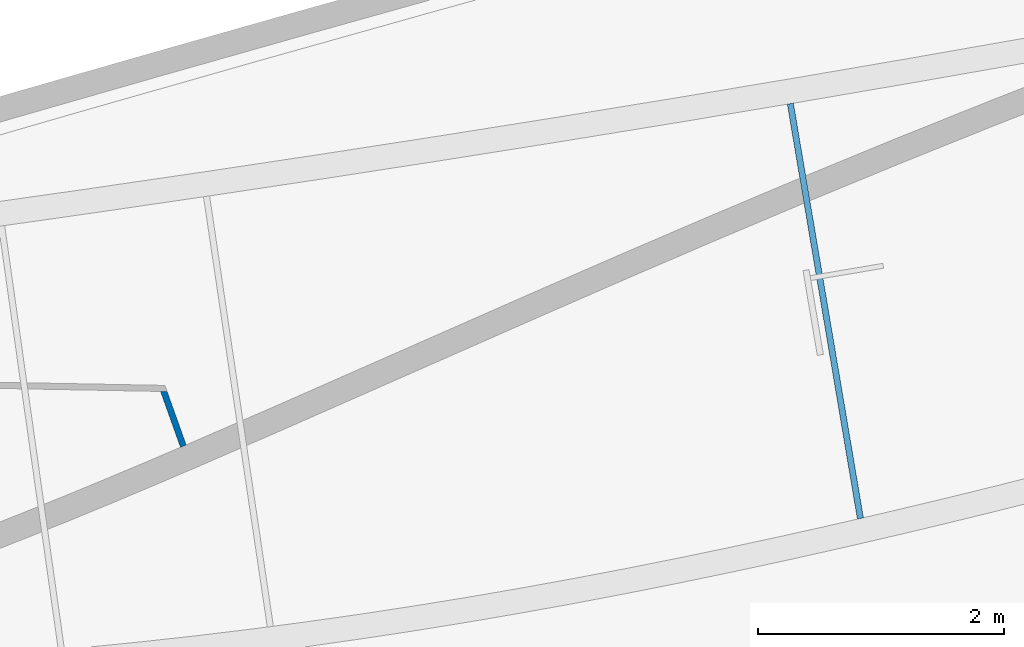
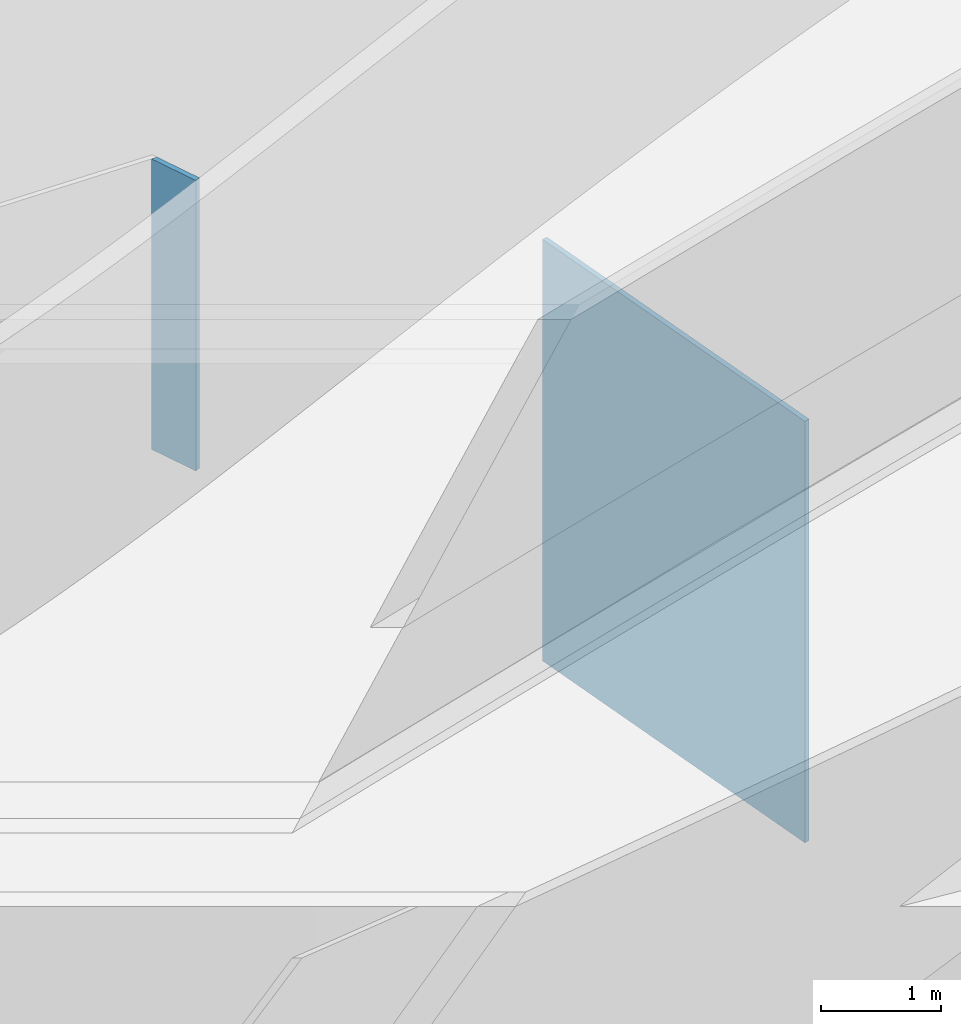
# Not in any storey, part 4 of 16: 2 walls.
"""IFC2X3 model written with IfcOpenShell, lengths in millimetres."""

from ifc_helpers import new_model, entity, si_unit, converted_unit, direction, frame, origin_with_axes, place, context, project, spatial, polyline, segment, composite_curve, outline, extrude, material, layer, layer_set, layer_usage, type_object, element, save


model = new_model("IFC2X3")

# Units and contexts
model_context = context("Model", 3, precision=1.0, world=origin_with_axes(), true_north=direction((0.0, 1.0)))
ifc_project = project(units=[converted_unit("PLANEANGLEUNIT", "DEGREE", entity("IfcRatioMeasure", 0.017453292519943), si_unit("PLANEANGLEUNIT", "RADIAN"), dimensions=[0, 0, 0, 0, 0, 0, 0]), si_unit("LENGTHUNIT", "METRE", prefix="MILLI")], contexts=[model_context])

# Site
site_placement = place(None, origin_with_axes())
site = spatial("IfcSite", under=ifc_project, at=site_placement, Name="Site", CompositionType="ELEMENT")

# Walls
ifc_material = material(Name="Wall layer 1")
ifc_layer = layer(ifc_material, 50.0)
ifc_layer_set = layer_set([ifc_layer], Name="HOKI 50mm")
ifc_layer_usage = layer_usage(ifc_layer_set, "AXIS2", "POSITIVE", -25.0)
wall_type = type_object("IfcWallType", Name="HOKI 50mm", PredefinedType="STANDARD", material=ifc_layer_set)
wall_1_placement = place(site_placement, frame((-25583.5957857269, -3144.46301578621, 4500.0), z_axis=(0.0, 0.0, 1.0), x_axis=(-0.166578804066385, 0.986028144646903, 0.0)))
element("IfcWallStandardCase", 1, at=wall_1_placement, inside=site, type_object=wall_type, material=ifc_layer_usage, ObjectType="HOKI 50mm", context=model_context, shape_type="SweptSolid", body=[
    extrude(outline(composite_curve([segment(polyline([(2.9523132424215, -50.0000000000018), (-0.03422547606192, -1.819e-12)]), True, "CONTINUOUS"), segment(polyline([(-0.03422547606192, -1.819e-12), (3426.01549598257, -9.5e-14)]), True, "CONTINUOUS"), segment(polyline([(3426.01549598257, -9.5e-14), (3426.01549598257, -49.9999999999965)]), True, "CONTINUOUS"), segment(polyline([(3426.01549598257, -49.9999999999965), (2.9523132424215, -50.0000000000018)]), True, "CONTINUOUS")], self_intersect="UNKNOWN")), origin_with_axes(), (0.0, 0.0, 1.0), 4280.0),
])
wall_2_placement = place(site_placement, frame((-31044.1803584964, -2701.58365624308, 9850.0), z_axis=(0.0, 0.0, 1.0), x_axis=(-0.335924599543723, 0.941888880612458, 0.0)))
element("IfcWallStandardCase", 2, at=wall_2_placement, inside=site, type_object=wall_type, material=ifc_layer_usage, ObjectType="HOKI 50mm", context=model_context, shape_type="SweptSolid", body=[
    extrude(outline(composite_curve([segment(polyline([(633.60836398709, 0.0), (614.709988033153, -49.9999999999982)]), True, "CONTINUOUS"), segment(polyline([(614.709988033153, -49.9999999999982), (153.451583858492, -49.9999999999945)]), True, "CONTINUOUS"), segment(polyline([(153.451583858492, -49.9999999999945), (150.295168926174, 1.819e-12)]), True, "CONTINUOUS"), segment(polyline([(150.295168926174, 1.819e-12), (633.60836398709, 0.0)]), True, "CONTINUOUS")], self_intersect="UNKNOWN")), origin_with_axes(), (0.0, 0.0, 1.0), 2950.0),
])

save(model, "model.ifc")
